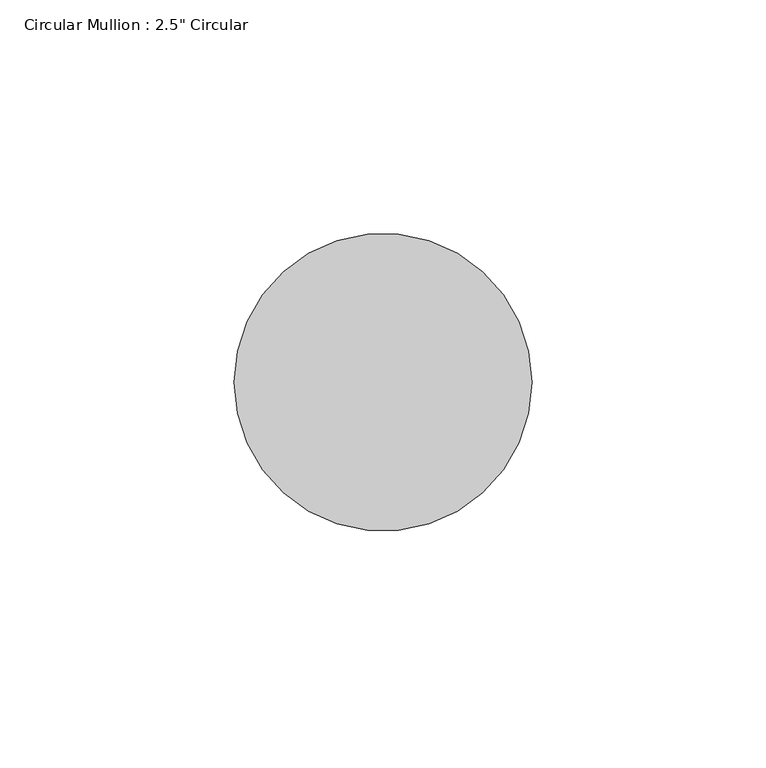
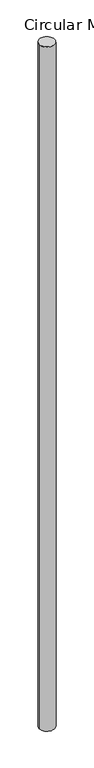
"""IFC4 building model written with IfcOpenShell, lengths in millimetres: member geometry."""

from ifc_helpers import new_model, si_unit, point, frame, origin, origin_2d, place, context, project, spatial, circle_curve, trimmed, segment, composite_curve, outline, extrude, source, transform, mapped, element, save


def member_18fb9c65(model_context):
    return source(origin(), model_context, "Body", "SweptSolid", [
        extrude(outline(composite_curve([segment(trimmed(circle_curve(origin_2d(), 31.75), [point((31.75, 0.0))], [point((-31.75, 0.0))], False, "CARTESIAN"), True, "CONTINUOUS"), segment(trimmed(circle_curve(origin_2d(), 31.75), [point((-31.75, 0.0))], [point((31.75, 0.0))], False, "CARTESIAN"), True, "CONTINUOUS")], self_intersect=False)), frame((0.0, 0.0, -2968.5107868), z_axis=(0.0, 0.0, 1.0), x_axis=(1.0, 0.0, 0.0)), (0.0, 0.0, 1.0), 2968.5107868),
    ])


if __name__ == "__main__":
    model = new_model("IFC4")
    model_context = context("Model", 3, world=origin())
    ifc_project = project(units=[si_unit("LENGTHUNIT", "METRE", prefix="MILLI")], contexts=[model_context])
    site = spatial("IfcSite", under=ifc_project)
    building = spatial("IfcBuilding", under=site)
    placement = place(None, origin())
    member_shape = member_18fb9c65(model_context)
    element("IfcMember", 1, ObjectType="Circular Mullion : 2.5\" Circular", at=placement, inside=building, context=model_context, shape_type="MappedRepresentation", body=[
        mapped(member_shape, transform((0.0, 0.0, 0.0), x_axis=(1.0, 0.0, 0.0), y_axis=(0.0, 1.0, 0.0), z_axis=(0.0, 0.0, 1.0))),
    ])
    save(model, "model.ifc")
